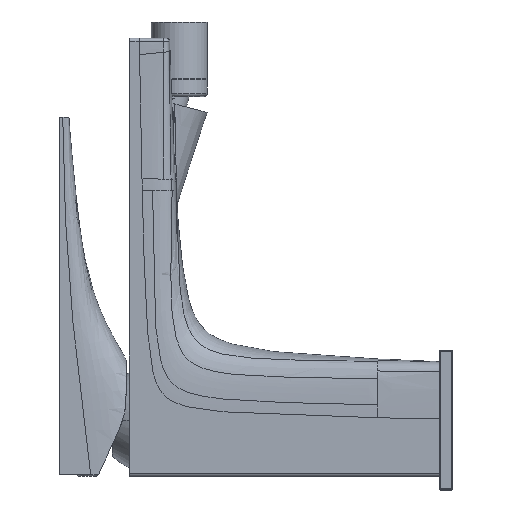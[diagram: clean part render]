
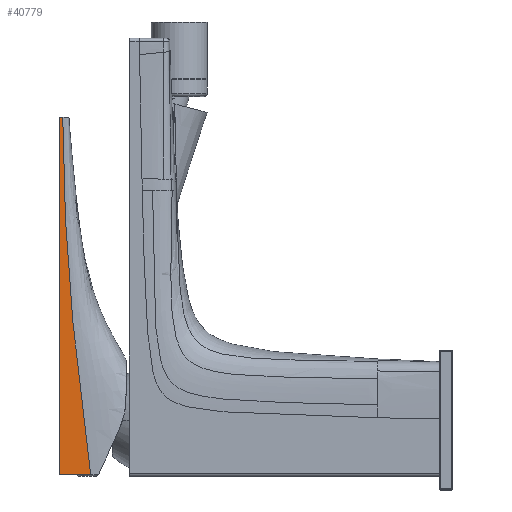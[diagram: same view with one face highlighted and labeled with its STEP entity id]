
A CAD part, left-side view. The second image highlights one B-rep face of the part: STEP entity #40779.
In plain terms, the highlighted planar face has unit normal (-1, 0, 0).
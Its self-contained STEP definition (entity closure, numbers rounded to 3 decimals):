
#8346=DIRECTION('',(0.,1.,0.));
#8347=VECTOR('',#8346,10.);
#8348=CARTESIAN_POINT('',(-17.5,108.7,
-17.5));
#8349=LINE('',#8348,#8347);
#8371=CARTESIAN_POINT('',(-17.5,108.7,
-17.5));
#8372=CARTESIAN_POINT('',(-17.5,108.863,
-16.335));
#8373=CARTESIAN_POINT('',(-17.5,109.184,
-14.006));
#8374=CARTESIAN_POINT('',(-17.5,109.657,
-10.501));
#8375=CARTESIAN_POINT('',(-17.5,110.118,
-7.007));
#8376=CARTESIAN_POINT('',(-17.5,110.571,
-3.493));
#8377=CARTESIAN_POINT('',(-17.5,110.967,
-0.34));
#8378=CARTESIAN_POINT('',(-17.5,111.332,2.629));
#8379=CARTESIAN_POINT('',(-17.5,111.647,5.246));
#8380=CARTESIAN_POINT('',(-17.5,111.957,7.876));
#8381=CARTESIAN_POINT('',(-17.5,112.26,10.506));
#8382=CARTESIAN_POINT('',(-17.5,112.557,13.138));
#8383=CARTESIAN_POINT('',(-17.5,112.845,15.756));
#8384=CARTESIAN_POINT('',(-17.5,113.128,18.394));
#8385=CARTESIAN_POINT('',(-17.5,113.404,21.025));
#8386=CARTESIAN_POINT('',(-17.5,113.672,23.653));
#8387=CARTESIAN_POINT('',(-17.5,113.933,26.286));
#8388=CARTESIAN_POINT('',(-17.5,114.187,28.919));
#8389=CARTESIAN_POINT('',(-17.5,114.433,31.552));
#8390=CARTESIAN_POINT('',(-17.5,114.671,34.179));
#8391=CARTESIAN_POINT('',(-17.5,114.903,36.83));
#8392=CARTESIAN_POINT('',(-17.5,115.186,40.174));
#8393=CARTESIAN_POINT('',(-17.5,115.552,44.754));
#8394=CARTESIAN_POINT('',(-17.5,115.937,49.984));
#8395=CARTESIAN_POINT('',(-17.5,116.293,55.265));
#8396=CARTESIAN_POINT('',(-17.5,116.61,60.544));
#8397=CARTESIAN_POINT('',(-17.5,116.889,65.805));
#8398=CARTESIAN_POINT('',(-17.5,117.132,71.081));
#8399=CARTESIAN_POINT('',(-17.5,117.335,76.381));
#8400=CARTESIAN_POINT('',(-17.5,117.495,81.644));
#8401=CARTESIAN_POINT('',(-17.5,117.612,86.928));
#8402=CARTESIAN_POINT('',(-17.5,117.684,92.226));
#8403=CARTESIAN_POINT('',(-17.5,117.7,95.741));
#8404=CARTESIAN_POINT('',(-17.5,117.7,97.5));
#8406=CARTESIAN_POINT('',(-17.5,117.7,97.5));
#8464=DIRECTION('',(0.,-1.,0.));
#8465=VECTOR('',#8464,1.);
#8466=CARTESIAN_POINT('',(-17.5,118.7,97.5));
#8467=LINE('',#8466,#8465);
#8515=DIRECTION('',(0.,0.,1.));
#8516=VECTOR('',#8515,115.);
#8517=CARTESIAN_POINT('',(-17.5,118.7,-17.5));
#8518=LINE('',#8517,#8516);
#18918=CARTESIAN_POINT('',(-17.5,118.7,-17.5));
#18919=VERTEX_POINT('',#18918);
#18920=VERTEX_POINT('',#8406);
#18922=VERTEX_POINT('',#8371);
#18925=CARTESIAN_POINT('',(-17.5,118.7,97.5));
#18926=VERTEX_POINT('',#18925);
#40766=CARTESIAN_POINT('',(-17.5,113.7,40.));
#40767=DIRECTION('',(1.,0.,0.));
#40768=DIRECTION('',(0.,1.,0.));
#40769=AXIS2_PLACEMENT_3D('',#40766,#40767,#40768);
#40770=PLANE('',#40769);
#40772=ORIENTED_EDGE('',*,*,#40771,.T.);
#40773=ORIENTED_EDGE('',*,*,#40756,.F.);
#40774=ORIENTED_EDGE('',*,*,#38801,.T.);
#40776=ORIENTED_EDGE('',*,*,#40775,.T.);
#40777=EDGE_LOOP('',(#40772,#40773,#40774,#40776));
#40778=FACE_OUTER_BOUND('',#40777,.F.);
#40779=ADVANCED_FACE('',(#40778),#40770,.F.);
#8405=B_SPLINE_CURVE_WITH_KNOTS('',3,(#8371,#8372,#8373,#8374,#8375,#8376,#8377,
#8378,#8379,#8380,#8381,#8382,#8383,#8384,#8385,#8386,#8387,#8388,#8389,#8390,
#8391,#8392,#8393,#8394,#8395,#8396,#8397,#8398,#8399,#8400,#8401,#8402,#8403,
#8404),.UNSPECIFIED.,.F.,.F.,(4,1,1,1,1,1,1,1,1,1,1,1,1,1,1,1,1,1,1,1,1,1,1,1,1,
1,1,1,1,1,1,4),(0.,0.032,0.064,0.097,
0.129,0.161,0.185,0.208,
0.232,0.255,0.279,0.302,
0.326,0.349,0.373,0.397,
0.42,0.444,0.467,0.491,
0.514,0.558,0.603,0.647,
0.691,0.735,0.779,0.823,
0.868,0.912,0.956,1.),.UNSPECIFIED.);
#38801=EDGE_CURVE('',#18922,#18919,#8349,.T.);
#40756=EDGE_CURVE('',#18922,#18920,#8405,.T.);
#40771=EDGE_CURVE('',#18926,#18920,#8467,.T.);
#40775=EDGE_CURVE('',#18919,#18926,#8518,.T.);
